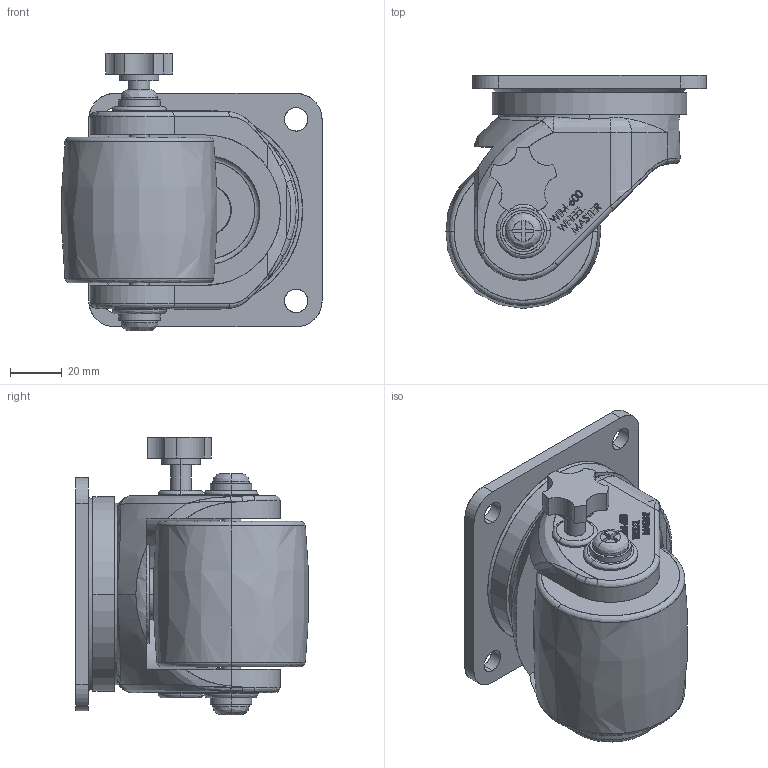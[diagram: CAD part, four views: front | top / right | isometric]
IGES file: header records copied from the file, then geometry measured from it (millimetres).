
Start section: SolidWorks IGES file using analytic representation for surfaces
Bounding box: 100.35 x 89.85 x 107 mm (x, y, z)
Surface area: 79998.9 mm2 (no closed solid volume)
Topology: 0 solids, 0 shells, 661 faces, 8747 edges, 8743 vertices
Faces by surface type: bspline 551, revolution 110
